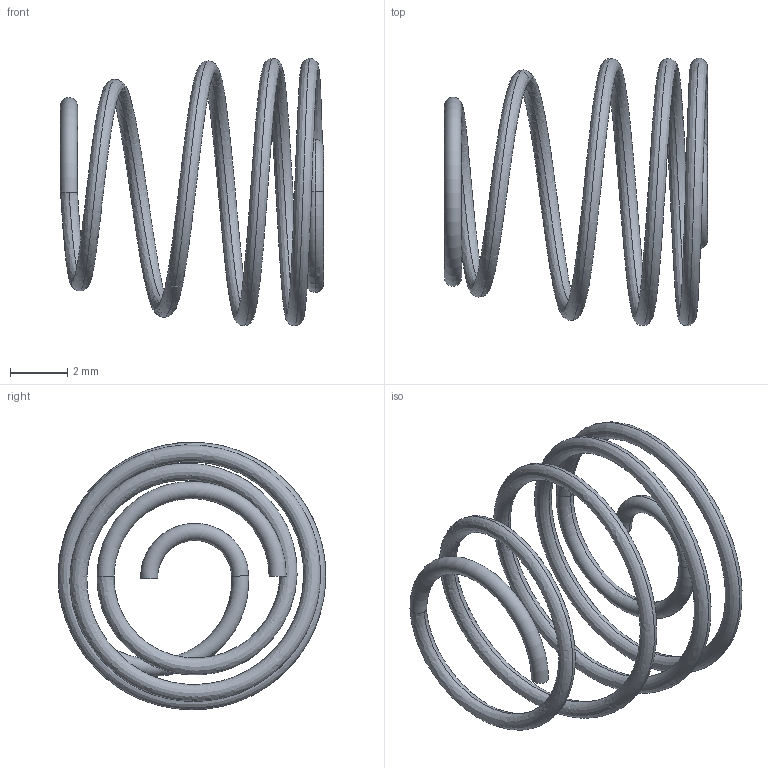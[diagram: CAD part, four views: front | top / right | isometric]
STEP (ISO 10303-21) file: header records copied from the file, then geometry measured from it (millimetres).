
FILE_DESCRIPTION(/* description */ ('STEP AP242 Edition 2','CAx-IF Rec.Pracs.---Representation and Presentation of Product Manufacturing Information (PMI)---4.0---2014-10-13','CAx-IF Rec.Pracs.---3D Tessellated Geometry---0.4---2014-09-14','2;1','CAx-IF Rec.Pracs.---User Defined Attributes---1.5---2016-08-15'),/* implementation_level */ '2;1');
FILE_NAME(/* name */ 'Part Studio 1 - Surface 30',/* time_stamp */ '2026-11-25T23:28:52Z',/* author */ (''),/* organization */ (''),/* preprocessor_version */ 'ST-DEVELOPER v20',/* originating_system */ 'ONSHAPE BY PTC INC, 1.224',/* authorisation */ ' ');
FILE_SCHEMA (('AP242_MANAGED_MODEL_BASED_3D_ENGINEERING_MIM_LF { 1 0 10303 442 3 1 4 }'));
Length unit declared in the file: metre
Products named in the file (1): NONE
Bounding box: 9.21 x 9.37 x 9.37 mm (x, y, z)
Surface area: 237.6 mm2 (no closed solid volume)
Topology: 0 solids, 1 shells, 7 faces, 16 edges, 9 vertices
Faces by surface type: torus 5, bspline 2
Entity records: 1175 total; most frequent: CARTESIAN_POINT 1041, ORIENTED_EDGE 27, EDGE_CURVE 15, B_SPLINE_CURVE_WITH_KNOTS 14, DIRECTION 14, VERTEX_POINT 9, EDGE_LOOP 8, FACE_BOUND 8
